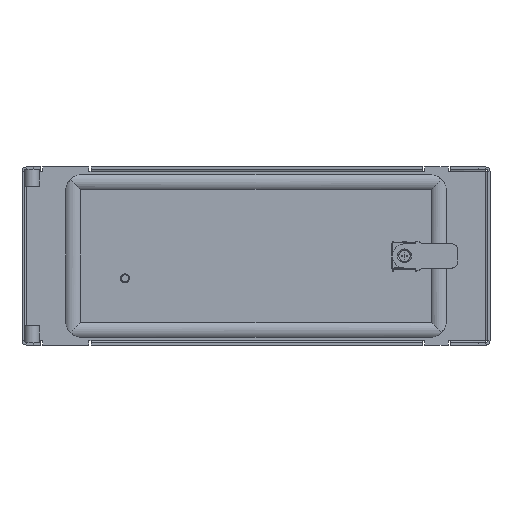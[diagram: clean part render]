
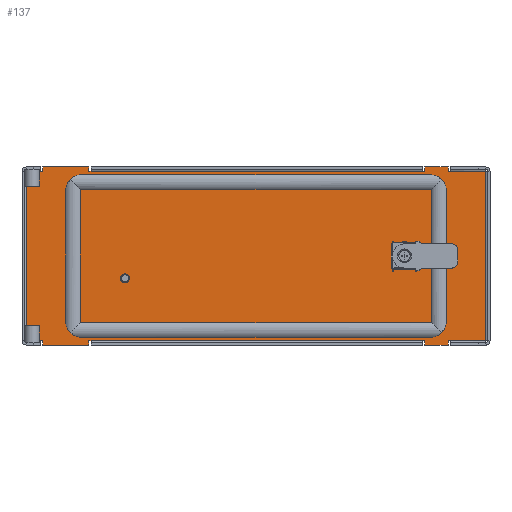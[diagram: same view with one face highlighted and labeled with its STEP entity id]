
A CAD part, top view. The second image highlights one B-rep face of the part: STEP entity #137.
In plain terms, the highlighted planar face has unit normal (0, 0, 1).
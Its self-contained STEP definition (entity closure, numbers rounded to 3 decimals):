
#137=ADVANCED_FACE('',(#702,#704,#706),#708,.T.);
#702=FACE_BOUND('',#703,.T.);
#703=EDGE_LOOP('',(#3435,#3436,#3437,#3438,#3439,#3440,#3441,#3442,#3443,#3444,#3445,
#3446,#3447,#3448,#3449,#3450,#3451,#3452,#3453,#3454,#3455,#3456,#3457,#3458,#3459,
#3460,#3461,#3462));
#704=FACE_BOUND('',#705,.T.);
#705=EDGE_LOOP('',(#3463));
#706=FACE_BOUND('',#707,.T.);
#707=EDGE_LOOP('',(#3464,#3465,#3466,#3467));
#708=PLANE('',#709);
#709=AXIS2_PLACEMENT_3D('',#710,#711,#712);
#710=CARTESIAN_POINT('',(0.,0.,2.));
#711=DIRECTION('',(0.,0.,1.));
#712=DIRECTION('',(1.,0.,0.));
#3435=ORIENTED_EDGE('',*,*,#5245,.F.);
#3436=ORIENTED_EDGE('',*,*,#5225,.F.);
#3437=ORIENTED_EDGE('',*,*,#5152,.F.);
#3438=ORIENTED_EDGE('',*,*,#5246,.F.);
#3439=ORIENTED_EDGE('',*,*,#5247,.F.);
#3440=ORIENTED_EDGE('',*,*,#5248,.F.);
#3441=ORIENTED_EDGE('',*,*,#5249,.F.);
#3442=ORIENTED_EDGE('',*,*,#5221,.F.);
#3443=ORIENTED_EDGE('',*,*,#5156,.F.);
#3444=ORIENTED_EDGE('',*,*,#5250,.F.);
#3445=ORIENTED_EDGE('',*,*,#5251,.F.);
#3446=ORIENTED_EDGE('',*,*,#5252,.F.);
#3447=ORIENTED_EDGE('',*,*,#5253,.F.);
#3448=ORIENTED_EDGE('',*,*,#5254,.F.);
#3449=ORIENTED_EDGE('',*,*,#5255,.F.);
#3450=ORIENTED_EDGE('',*,*,#5176,.F.);
#3451=ORIENTED_EDGE('',*,*,#5149,.F.);
#3452=ORIENTED_EDGE('',*,*,#5256,.T.);
#3453=ORIENTED_EDGE('',*,*,#5257,.T.);
#3454=ORIENTED_EDGE('',*,*,#5258,.T.);
#3455=ORIENTED_EDGE('',*,*,#5143,.F.);
#3456=ORIENTED_EDGE('',*,*,#5174,.F.);
#3457=ORIENTED_EDGE('',*,*,#5141,.F.);
#3458=ORIENTED_EDGE('',*,*,#5259,.T.);
#3459=ORIENTED_EDGE('',*,*,#5260,.T.);
#3460=ORIENTED_EDGE('',*,*,#5261,.T.);
#3461=ORIENTED_EDGE('',*,*,#5135,.F.);
#3462=ORIENTED_EDGE('',*,*,#5182,.F.);
#3463=ORIENTED_EDGE('',*,*,#5133,.F.);
#3464=ORIENTED_EDGE('',*,*,#5262,.F.);
#3465=ORIENTED_EDGE('',*,*,#5263,.F.);
#3466=ORIENTED_EDGE('',*,*,#5264,.F.);
#3467=ORIENTED_EDGE('',*,*,#5265,.F.);
#5133=EDGE_CURVE('',#6052,#6052,#6053,.T.);
#5135=EDGE_CURVE('',#6056,#6057,#6058,.T.);
#5141=EDGE_CURVE('',#6067,#6069,#6070,.T.);
#5143=EDGE_CURVE('',#6072,#6073,#6074,.T.);
#5149=EDGE_CURVE('',#6083,#6085,#6086,.T.);
#5152=EDGE_CURVE('',#6088,#6091,#6092,.T.);
#5156=EDGE_CURVE('',#6096,#6099,#6100,.T.);
#5174=EDGE_CURVE('',#6069,#6072,#6129,.T.);
#5176=EDGE_CURVE('',#6085,#6132,#6133,.T.);
#5182=EDGE_CURVE('',#6141,#6056,#6143,.T.);
#5221=EDGE_CURVE('',#6099,#6206,#6207,.T.);
#5225=EDGE_CURVE('',#6091,#6213,#6214,.T.);
#5245=EDGE_CURVE('',#6213,#6141,#6244,.T.);
#5246=EDGE_CURVE('',#6245,#6088,#6246,.T.);
#5247=EDGE_CURVE('',#6247,#6245,#6248,.T.);
#5248=EDGE_CURVE('',#6249,#6247,#6250,.T.);
#5249=EDGE_CURVE('',#6206,#6249,#6251,.T.);
#5250=EDGE_CURVE('',#6252,#6096,#6253,.T.);
#5251=EDGE_CURVE('',#6254,#6252,#6255,.T.);
#5252=EDGE_CURVE('',#6256,#6254,#6257,.T.);
#5253=EDGE_CURVE('',#6258,#6256,#6259,.T.);
#5254=EDGE_CURVE('',#6260,#6258,#6261,.T.);
#5255=EDGE_CURVE('',#6132,#6260,#6262,.T.);
#5256=EDGE_CURVE('',#6083,#6263,#6264,.T.);
#5257=EDGE_CURVE('',#6263,#6265,#6266,.T.);
#5258=EDGE_CURVE('',#6265,#6073,#6267,.T.);
#5259=EDGE_CURVE('',#6067,#6268,#6269,.T.);
#5260=EDGE_CURVE('',#6268,#6270,#6271,.T.);
#5261=EDGE_CURVE('',#6270,#6057,#6272,.T.);
#5262=EDGE_CURVE('',#6273,#6274,#6275,.T.);
#5263=EDGE_CURVE('',#6276,#6273,#6277,.T.);
#5264=EDGE_CURVE('',#6278,#6276,#6279,.T.);
#5265=EDGE_CURVE('',#6274,#6278,#6280,.T.);
#6052=VERTEX_POINT('',#7567);
#6053=CIRCLE('',#7568,0.5);
#6056=VERTEX_POINT('',#7577);
#6057=VERTEX_POINT('',#7578);
#6058=LINE('',#7579,#7580);
#6067=VERTEX_POINT('',#7598);
#6069=VERTEX_POINT('',#7602);
#6070=LINE('',#7603,#7604);
#6072=VERTEX_POINT('',#7609);
#6073=VERTEX_POINT('',#7610);
#6074=LINE('',#7611,#7612);
#6083=VERTEX_POINT('',#7630);
#6085=VERTEX_POINT('',#7634);
#6086=LINE('',#7635,#7636);
#6088=VERTEX_POINT('',#7641);
#6091=VERTEX_POINT('',#7646);
#6092=LINE('',#7647,#7648);
#6096=VERTEX_POINT('',#7657);
#6099=VERTEX_POINT('',#7662);
#6100=LINE('',#7663,#7664);
#6129=LINE('',#7762,#7763);
#6132=VERTEX_POINT('',#7770);
#6133=LINE('',#7771,#7772);
#6141=VERTEX_POINT('',#7803);
#6143=LINE('',#7820,#7821);
#6206=VERTEX_POINT('',#7979);
#6207=LINE('',#7980,#7981);
#6213=VERTEX_POINT('',#7996);
#6214=LINE('',#7997,#7998);
#6244=LINE('',#8080,#8081);
#6245=VERTEX_POINT('',#8083);
#6246=LINE('',#8084,#8085);
#6247=VERTEX_POINT('',#8087);
#6248=LINE('',#8088,#8089);
#6249=VERTEX_POINT('',#8091);
#6250=LINE('',#8092,#8093);
#6251=LINE('',#8095,#8096);
#6252=VERTEX_POINT('',#8098);
#6253=LINE('',#8099,#8100);
#6254=VERTEX_POINT('',#8102);
#6255=LINE('',#8103,#8104);
#6256=VERTEX_POINT('',#8106);
#6257=LINE('',#8107,#8108);
#6258=VERTEX_POINT('',#8110);
#6259=LINE('',#8111,#8112);
#6260=VERTEX_POINT('',#8114);
#6261=LINE('',#8115,#8116);
#6262=LINE('',#8118,#8119);
#6263=VERTEX_POINT('',#8121);
#6264=LINE('',#8122,#8123);
#6265=VERTEX_POINT('',#8125);
#6266=LINE('',#8126,#8127);
#6267=LINE('',#8129,#8130);
#6268=VERTEX_POINT('',#8132);
#6269=LINE('',#8133,#8134);
#6270=VERTEX_POINT('',#8136);
#6271=LINE('',#8137,#8138);
#6272=LINE('',#8140,#8141);
#6273=VERTEX_POINT('',#8143);
#6274=VERTEX_POINT('',#8144);
#6275=LINE('',#8145,#8146);
#6276=VERTEX_POINT('',#8148);
#6277=LINE('',#8149,#8150);
#6278=VERTEX_POINT('',#8152);
#6279=LINE('',#8153,#8154);
#6280=LINE('',#8156,#8157);
#7567=CARTESIAN_POINT('',(-107.7,-18.5,2.));
#7568=AXIS2_PLACEMENT_3D('',#7569,#7570,#7571);
#7569=CARTESIAN_POINT('',(-108.2,-18.5,2.));
#7570=DIRECTION('',(0.,0.,1.));
#7571=DIRECTION('',(-1.,0.,0.));
#7577=CARTESIAN_POINT('',(160.7,-70.1,2.));
#7578=CARTESIAN_POINT('',(158.7,-70.1,2.));
#7579=CARTESIAN_POINT('',(160.7,-70.1,2.));
#7580=VECTOR('',#7581,1.);
#7581=DIRECTION('',(-1.,0.,0.));
#7598=CARTESIAN_POINT('',(139.2,-70.1,2.));
#7602=CARTESIAN_POINT('',(137.2,-70.1,2.));
#7603=CARTESIAN_POINT('',(139.2,-70.1,2.));
#7604=VECTOR('',#7605,1.);
#7605=DIRECTION('',(-1.,0.,0.));
#7609=CARTESIAN_POINT('',(-136.2,-70.1,2.));
#7610=CARTESIAN_POINT('',(-138.2,-70.1,2.));
#7611=CARTESIAN_POINT('',(-136.2,-70.1,2.));
#7612=VECTOR('',#7613,1.);
#7613=DIRECTION('',(-1.,0.,0.));
#7630=CARTESIAN_POINT('',(-176.2,-70.1,2.));
#7634=CARTESIAN_POINT('',(-178.2,-70.1,2.));
#7635=CARTESIAN_POINT('',(-176.2,-70.1,2.));
#7636=VECTOR('',#7637,1.);
#7637=DIRECTION('',(-1.,0.,0.));
#7641=CARTESIAN_POINT('',(158.7,70.1,2.));
#7646=CARTESIAN_POINT('',(160.7,70.1,2.));
#7647=CARTESIAN_POINT('',(158.7,70.1,2.));
#7648=VECTOR('',#7649,1.);
#7649=DIRECTION('',(1.,0.,0.));
#7657=CARTESIAN_POINT('',(-138.2,70.1,2.));
#7662=CARTESIAN_POINT('',(-136.2,70.1,2.));
#7663=CARTESIAN_POINT('',(-138.2,70.1,2.));
#7664=VECTOR('',#7665,1.);
#7665=DIRECTION('',(1.,0.,0.));
#7762=CARTESIAN_POINT('',(137.2,-70.1,2.));
#7763=VECTOR('',#7764,1.);
#7764=DIRECTION('',(-1.,0.,0.));
#7770=CARTESIAN_POINT('',(-189.8,-70.1,2.));
#7771=CARTESIAN_POINT('',(-178.2,-70.1,2.));
#7772=VECTOR('',#7773,1.);
#7773=DIRECTION('',(-1.,0.,0.));
#7803=CARTESIAN_POINT('',(189.8,-70.1,2.));
#7820=CARTESIAN_POINT('',(189.8,-70.1,2.));
#7821=VECTOR('',#7822,1.);
#7822=DIRECTION('',(-1.,0.,0.));
#7979=CARTESIAN_POINT('',(137.2,70.1,2.));
#7980=CARTESIAN_POINT('',(-136.2,70.1,2.));
#7981=VECTOR('',#7982,1.);
#7982=DIRECTION('',(1.,0.,0.));
#7996=CARTESIAN_POINT('',(189.8,70.1,2.));
#7997=CARTESIAN_POINT('',(160.7,70.1,2.));
#7998=VECTOR('',#7999,1.);
#7999=DIRECTION('',(1.,0.,0.));
#8080=CARTESIAN_POINT('',(189.8,70.1,2.));
#8081=VECTOR('',#8082,1.);
#8082=DIRECTION('',(0.,-1.,0.));
#8083=CARTESIAN_POINT('',(158.7,73.5,2.));
#8084=CARTESIAN_POINT('',(158.7,73.5,2.));
#8085=VECTOR('',#8086,1.);
#8086=DIRECTION('',(0.,-1.,0.));
#8087=CARTESIAN_POINT('',(139.2,73.5,2.));
#8088=CARTESIAN_POINT('',(139.2,73.5,2.));
#8089=VECTOR('',#8090,1.);
#8090=DIRECTION('',(1.,0.,0.));
#8091=CARTESIAN_POINT('',(139.2,70.1,2.));
#8092=CARTESIAN_POINT('',(139.2,70.1,2.));
#8093=VECTOR('',#8094,1.);
#8094=DIRECTION('',(0.,1.,0.));
#8095=CARTESIAN_POINT('',(137.2,70.1,2.));
#8096=VECTOR('',#8097,1.);
#8097=DIRECTION('',(1.,0.,0.));
#8098=CARTESIAN_POINT('',(-138.2,73.5,2.));
#8099=CARTESIAN_POINT('',(-138.2,73.5,2.));
#8100=VECTOR('',#8101,1.);
#8101=DIRECTION('',(0.,-1.,0.));
#8102=CARTESIAN_POINT('',(-176.2,73.5,2.));
#8103=CARTESIAN_POINT('',(-176.2,73.5,2.));
#8104=VECTOR('',#8105,1.);
#8105=DIRECTION('',(1.,0.,0.));
#8106=CARTESIAN_POINT('',(-176.2,70.1,2.));
#8107=CARTESIAN_POINT('',(-176.2,70.1,2.));
#8108=VECTOR('',#8109,1.);
#8109=DIRECTION('',(0.,1.,0.));
#8110=CARTESIAN_POINT('',(-178.2,70.1,2.));
#8111=CARTESIAN_POINT('',(-178.2,70.1,2.));
#8112=VECTOR('',#8113,1.);
#8113=DIRECTION('',(1.,0.,0.));
#8114=CARTESIAN_POINT('',(-189.8,70.1,2.));
#8115=CARTESIAN_POINT('',(-189.8,70.1,2.));
#8116=VECTOR('',#8117,1.);
#8117=DIRECTION('',(1.,0.,0.));
#8118=CARTESIAN_POINT('',(-189.8,-70.1,2.));
#8119=VECTOR('',#8120,1.);
#8120=DIRECTION('',(0.,1.,0.));
#8121=CARTESIAN_POINT('',(-176.2,-73.5,2.));
#8122=CARTESIAN_POINT('',(-176.2,-70.1,2.));
#8123=VECTOR('',#8124,1.);
#8124=DIRECTION('',(0.,-1.,0.));
#8125=CARTESIAN_POINT('',(-138.2,-73.5,2.));
#8126=CARTESIAN_POINT('',(-176.2,-73.5,2.));
#8127=VECTOR('',#8128,1.);
#8128=DIRECTION('',(1.,0.,0.));
#8129=CARTESIAN_POINT('',(-138.2,-73.5,2.));
#8130=VECTOR('',#8131,1.);
#8131=DIRECTION('',(0.,1.,0.));
#8132=CARTESIAN_POINT('',(139.2,-73.5,2.));
#8133=CARTESIAN_POINT('',(139.2,-70.1,2.));
#8134=VECTOR('',#8135,1.);
#8135=DIRECTION('',(0.,-1.,0.));
#8136=CARTESIAN_POINT('',(158.7,-73.5,2.));
#8137=CARTESIAN_POINT('',(139.2,-73.5,2.));
#8138=VECTOR('',#8139,1.);
#8139=DIRECTION('',(1.,0.,0.));
#8140=CARTESIAN_POINT('',(158.7,-73.5,2.));
#8141=VECTOR('',#8142,1.);
#8142=DIRECTION('',(0.,1.,0.));
#8143=CARTESIAN_POINT('',(133.2,-10.6,2.));
#8144=CARTESIAN_POINT('',(133.2,10.6,2.));
#8145=CARTESIAN_POINT('',(133.2,-10.6,2.));
#8146=VECTOR('',#8147,1.);
#8147=DIRECTION('',(0.,1.,0.));
#8148=CARTESIAN_POINT('',(112.,-10.6,2.));
#8149=CARTESIAN_POINT('',(112.,-10.6,2.));
#8150=VECTOR('',#8151,1.);
#8151=DIRECTION('',(1.,0.,0.));
#8152=CARTESIAN_POINT('',(112.,10.6,2.));
#8153=CARTESIAN_POINT('',(112.,10.6,2.));
#8154=VECTOR('',#8155,1.);
#8155=DIRECTION('',(0.,-1.,0.));
#8156=CARTESIAN_POINT('',(133.2,10.6,2.));
#8157=VECTOR('',#8158,1.);
#8158=DIRECTION('',(-1.,0.,0.));
